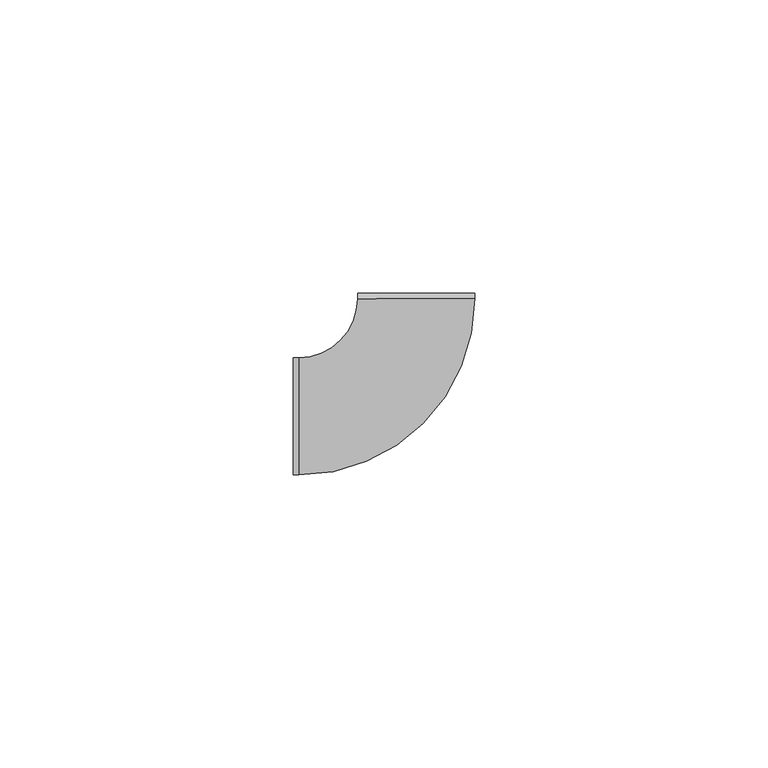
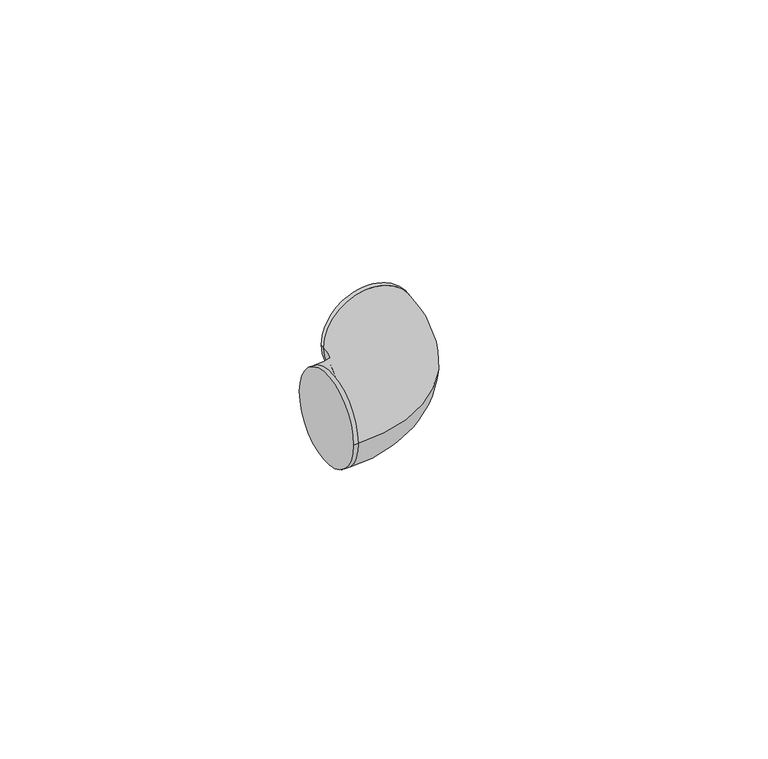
"""IFC4 building model written with IfcOpenShell, lengths in millimetres: cable carrier fitting geometry, ADSK_Поворот_Минимальный размер : Неспецифицируемый."""

from ifc_helpers import new_model, si_unit, point, frame, origin, place, context, project, spatial, circle_curve, ellipse_curve, trimmed, source, transform, mapped, element, save
from ifc_brep_helpers import plane_surface, cylinder_surface, revolved_surface, advanced_brep


def cable_carrier_fitting_8e51bf8c(model_context):
    return source(origin(), model_context, "Body", "AdvancedBrep", [
        advanced_brep(
        [(-21.0063602, -10.0, 0.0), (-21.0063602, 10.0, 0.0), (-20.0063602, -10.0, 0.0), (-20.0063602, 10.0, 0.0), (-10.0063607, 20.0031796, 0.0), (9.9936383, 20.0095388, 0.0), (9.9933203, 21.0095387, 0.0), (-10.0066787, 21.0031795, 0.0)],
        [
            (0, 1, circle_curve(frame((-21.0063602, 0.0, 0.0), z_axis=(-1.0, -4.92260399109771e-12, 0.0), x_axis=(-4.92260399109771e-12, 1.0, 0.0)), 10.0)),
            (1, 0, circle_curve(frame((-21.0063602, 0.0, 0.0), z_axis=(-1.0, -4.92260399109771e-12, 0.0), x_axis=(-4.92260399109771e-12, 1.0, 0.0)), 10.0)),
            (0, 2),
            (2, 3, circle_curve(frame((-20.0063602, 0.0, 0.0), z_axis=(-1.0, -4.92260399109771e-12, 0.0), x_axis=(-4.92260399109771e-12, 1.0, 0.0)), 10.0)),
            (3, 1),
            (3, 2, circle_curve(frame((-20.0063602, 0.0, 0.0), z_axis=(-1.0, -4.92260399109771e-12, 0.0), x_axis=(-4.92260399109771e-12, 1.0, 0.0)), 10.0)),
            (4, 3, circle_curve(frame((-20.0063602, 20.0, 0.0), z_axis=(0.0, 0.0, -1.0), x_axis=(0.0, -1.0, 0.0)), 10.0)),
            (2, 5, circle_curve(frame((-20.0063602, 20.0, 0.0), z_axis=(0.0, 0.0, 1.0), x_axis=(0.0, -1.0, 0.0)), 30.0)),
            (5, 4, circle_curve(frame((-0.0063612, 20.0063592, 0.0), z_axis=(0.00031795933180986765, -0.9999999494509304, 0.0), x_axis=(-0.9999999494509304, -0.00031795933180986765, 0.0)), 10.0)),
            (4, 5, circle_curve(frame((-0.0063612, 20.0063592, 0.0), z_axis=(0.00031795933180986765, -0.9999999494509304, 0.0), x_axis=(-0.9999999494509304, -0.00031795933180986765, 0.0)), 10.0)),
            (6, 7, circle_curve(frame((-0.0066792, 21.0063591, 0.0), z_axis=(-0.0003179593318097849, 0.9999999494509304, 0.0), x_axis=(-0.9999999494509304, -0.0003179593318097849, 0.0)), 10.0)),
            (7, 6, circle_curve(frame((-0.0066792, 21.0063591, 0.0), z_axis=(-0.0003179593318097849, 0.9999999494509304, 0.0), x_axis=(-0.9999999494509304, -0.0003179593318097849, 0.0)), 10.0)),
            (5, 6),
            (7, 4),
        ],
        [
            plane_surface(frame((-21.0063602, 0.0, 0.0), z_axis=(-1.0, -4.92260399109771e-12, 0.0), x_axis=(0.0, 0.0, 1.0))),
            cylinder_surface(frame((-21.0063602, 0.0, 0.0), z_axis=(-1.0, -4.92260399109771e-12, 0.0), x_axis=(-4.92260399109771e-12, 1.0, 0.0)), 10.0),
            revolved_surface(trimmed(ellipse_curve(frame((-20.0063602, 0.0, 0.0), z_axis=(-1.0, 0.0, 0.0), x_axis=(0.0, 1.0, 0.0)), 10.0, 10.0), [point((-20.0063602, -10.0, 0.0))], [point((-20.0063602, 10.0, 0.0))], True, "CARTESIAN"), (-20.0063602, 20.0, 0.0), (0.0, 0.0, 1.0)),
            revolved_surface(trimmed(ellipse_curve(frame((-20.0063602, 0.0, 0.0), z_axis=(-1.0, 0.0, 0.0), x_axis=(0.0, 1.0, 0.0)), 10.0, 10.0), [point((-20.0063602, 10.0, 0.0))], [point((-20.0063602, -10.0, 0.0))], True, "CARTESIAN"), (-20.0063602, 20.0, 0.0), (0.0, 0.0, 1.0)),
            plane_surface(frame((-0.0066792, 21.0063591, 0.0), z_axis=(-0.00031795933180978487, 0.9999999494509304, 0.0), x_axis=(0.0, 0.0, 1.0))),
            cylinder_surface(frame((-0.0063612, 20.0063592, 0.0), z_axis=(0.0003179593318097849, -0.9999999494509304, 0.0), x_axis=(-0.9999999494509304, -0.0003179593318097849, 0.0)), 10.0),
        ],
        [
            (0, [[1, 2]]),
            (1, [[-1, 3, 4, 5]]),
            (1, [[-2, -5, 6, -3]]),
            (2, [[7, -4, 8, 9]]),
            (3, [[-8, -6, -7, 10]]),
            (4, [[11, 12]]),
            (5, [[-9, 13, -12, 14]]),
            (5, [[-10, -14, -11, -13]]),
        ],
    ),
    ])


if __name__ == "__main__":
    model = new_model("IFC4")
    model_context = context("Model", 3, world=origin())
    ifc_project = project(units=[si_unit("LENGTHUNIT", "METRE", prefix="MILLI")], contexts=[model_context])
    site = spatial("IfcSite", under=ifc_project)
    building = spatial("IfcBuilding", under=site)
    placement = place(None, origin())
    cable_carrier_fitting_shape = cable_carrier_fitting_8e51bf8c(model_context)
    element("IfcCableCarrierFitting", 1, ObjectType="ADSK_Поворот_Минимальный размер : Неспецифицируемый", at=placement, inside=building, context=model_context, shape_type="MappedRepresentation", body=[
        mapped(cable_carrier_fitting_shape, transform((0.0, 0.0, 0.0), x_axis=(1.0, 0.0, 0.0), y_axis=(0.0, 1.0, 0.0), z_axis=(0.0, 0.0, 1.0))),
    ])
    save(model, "model.ifc")
